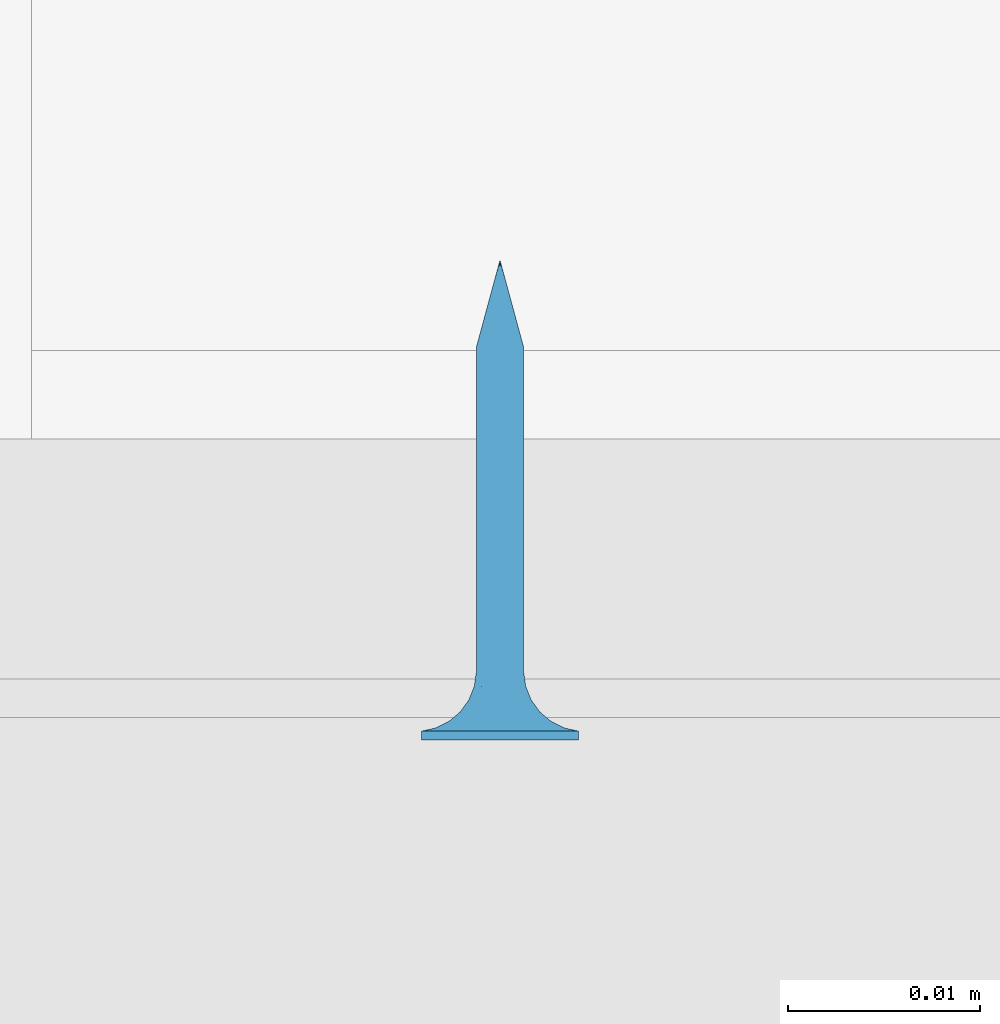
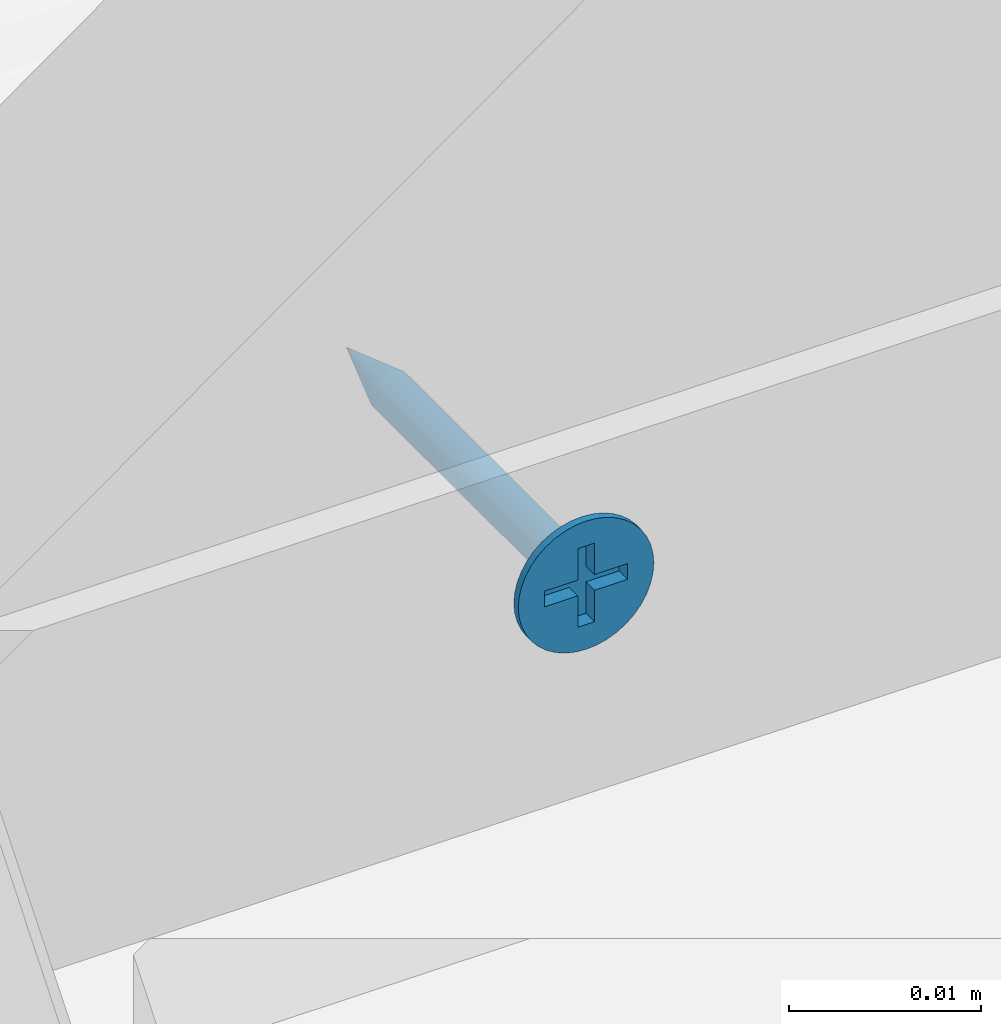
# One storey, part 28 of 79: 1 slab.
"""IFC2X3 building model written with IfcOpenShell, lengths in millimetres."""

from ifc_helpers import new_model, entity, si_unit, converted_unit, direction, frame, origin, origin_with_axes, place, context, project, spatial, faceted_brep, element, save


model = new_model("IFC2X3")

# Units and contexts
model_context = context("Model", 3, precision=1e-05, world=origin(), true_north=direction((0.0, 1.0, 0.0)))
ifc_project = project(units=[si_unit("LENGTHUNIT", "METRE", prefix="MILLI"), si_unit("AREAUNIT", "SQUARE_METRE"), si_unit("VOLUMEUNIT", "CUBIC_METRE"), converted_unit("PLANEANGLEUNIT", "DEGREE", entity("IfcPlaneAngleMeasure", 0.01745), si_unit("PLANEANGLEUNIT", "RADIAN"), dimensions=[0, 0, 0, 0, 0, 0, 0]), si_unit("SOLIDANGLEUNIT", "STERADIAN"), si_unit("MASSUNIT", "GRAM"), si_unit("TIMEUNIT", "SECOND"), si_unit("THERMODYNAMICTEMPERATUREUNIT", "DEGREE_CELSIUS"), si_unit("LUMINOUSINTENSITYUNIT", "LUMEN")], contexts=[model_context])

# Site, building, storey
site_placement = place(None, origin_with_axes())
site = spatial("IfcSite", under=ifc_project, at=site_placement, Name="Default Site", CompositionType="ELEMENT")
building_placement = place(site_placement, origin_with_axes())
building = spatial("IfcBuilding", under=site, at=building_placement, Name="Default Building", CompositionType="ELEMENT")
storey_placement = place(building_placement, origin_with_axes())
storey = spatial("IfcBuildingStorey", under=building, at=storey_placement, Name="Default Building Storey", CompositionType="ELEMENT", Elevation=0.0)

# Slab
slab_placement = place(storey_placement, frame((2730.499834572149, 5017.24186699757, 440.6779499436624), z_axis=(0.0, 0.0, 1.0), x_axis=(1.0, 0.0, 0.0)))
element("IfcSlab", 1, at=slab_placement, inside=storey, Name="Łącznik mechaniczny", context=model_context, shape_type="Brep", body=[
    faceted_brep([(-136.5890362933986, -3387.475459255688, 554.9298199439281), (-136.4636235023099, -3387.475459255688, 555.0766594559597), (-136.4636235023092, -3370.55807436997, 555.0766594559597), (-136.5890362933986, -3370.55807436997, 554.9298199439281), (-136.9005263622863, -3387.475459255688, 554.7035091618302), (-136.9005263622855, -3370.55807436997, 554.7035091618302), (-137.0789337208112, -3370.55807436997, 554.6296104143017), (-137.078933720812, -3387.475459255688, 554.6296104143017), (-137.2667048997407, -3387.475459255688, 554.5845305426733), (-137.2667048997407, -3370.55807436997, 554.5845305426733), (-137.4592163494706, -3370.55807436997, 554.5693795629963), (-137.4592163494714, -3387.475459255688, 554.5693795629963), (-136.4636235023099, -3387.475459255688, 556.5233405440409), (-136.5890362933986, -3387.475459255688, 556.6701800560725), (-136.5890362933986, -3370.55807436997, 556.6701800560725), (-136.4636235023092, -3370.55807436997, 556.5233405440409), (-138.4548091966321, -3370.55807436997, 556.5233405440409), (-138.3293964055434, -3370.55807436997, 556.6701800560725), (-138.3293964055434, -3387.475459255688, 556.6701800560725), (-138.4548091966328, -3387.475459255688, 556.5233405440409), (-136.7358758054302, -3370.55807436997, 554.8044071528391), (-136.7358758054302, -3387.475459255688, 554.8044071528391), (-138.1825568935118, -3387.475459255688, 556.7955928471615), (-138.1825568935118, -3370.55807436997, 556.7955928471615), (-138.0179063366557, -3370.55807436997, 556.8964908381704), (-138.0179063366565, -3387.475459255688, 556.8964908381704), (-136.3627255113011, -3387.475459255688, 556.3586899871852), (-136.3627255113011, -3370.55807436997, 556.3586899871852), (-136.7358758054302, -3387.475459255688, 556.7955928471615), (-136.7358758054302, -3370.55807436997, 556.7955928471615), (-137.6517277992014, -3387.475459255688, 554.5845305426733), (-137.6517277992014, -3370.55807436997, 554.5845305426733), (-137.83949897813, -3370.55807436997, 554.6296104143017), (-137.8394989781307, -3387.475459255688, 554.6296104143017), (-136.3627255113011, -3387.475459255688, 555.241310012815), (-136.3627255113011, -3370.55807436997, 555.241310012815), (-138.0179063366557, -3370.55807436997, 554.7035091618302), (-138.0179063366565, -3387.475459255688, 554.7035091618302), (-138.6746858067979, -3370.55807436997, 555.6074885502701), (-138.6898367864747, -3370.55807436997, 555.8000000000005), (-138.6898367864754, -3387.475459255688, 555.8000000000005), (-138.6746858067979, -3387.475459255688, 555.6074885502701), (-136.2285959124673, -3387.475459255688, 555.8000000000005), (-136.2437468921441, -3387.475459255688, 555.9925114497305), (-136.2437468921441, -3370.55807436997, 555.9925114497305), (-136.2285959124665, -3370.55807436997, 555.8000000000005), (-138.3293964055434, -3370.55807436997, 554.9298199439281), (-138.4548091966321, -3370.55807436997, 555.0766594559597), (-138.4548091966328, -3387.475459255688, 555.0766594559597), (-138.3293964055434, -3387.475459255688, 554.9298199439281), (-137.83949897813, -3370.55807436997, 556.9703895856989), (-137.8394989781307, -3387.475459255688, 556.9703895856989), (-138.1825568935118, -3370.55807436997, 554.8044071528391), (-138.1825568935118, -3387.475459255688, 554.8044071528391), (-138.5557071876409, -3370.55807436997, 555.241310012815), (-138.6296059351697, -3370.55807436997, 555.4197173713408), (-138.6296059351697, -3387.475459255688, 555.4197173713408), (-138.5557071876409, -3387.475459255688, 555.241310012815), (-136.2888267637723, -3387.475459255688, 555.4197173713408), (-136.2437468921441, -3387.475459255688, 555.6074885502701), (-136.2437468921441, -3370.55807436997, 555.6074885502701), (-136.2888267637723, -3370.55807436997, 555.4197173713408), (-136.2888267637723, -3387.475459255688, 556.1802826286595), (-136.2888267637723, -3370.55807436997, 556.1802826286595), (-137.4592163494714, -3387.475459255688, 557.0306204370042), (-137.4592163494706, -3370.55807436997, 557.0306204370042), (-137.2667048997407, -3370.55807436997, 557.0154694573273), (-137.2667048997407, -3387.475459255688, 557.0154694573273), (-137.0789337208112, -3370.55807436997, 556.9703895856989), (-137.078933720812, -3387.475459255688, 556.9703895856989), (-137.6517277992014, -3387.475459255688, 557.0154694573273), (-137.6517277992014, -3370.55807436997, 557.0154694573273), (-136.9005263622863, -3387.475459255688, 556.8964908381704), (-136.9005263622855, -3370.55807436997, 556.8964908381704), (-138.6296059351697, -3370.55807436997, 556.1802826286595), (-138.5557071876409, -3370.55807436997, 556.3586899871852), (-138.5557071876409, -3387.475459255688, 556.3586899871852), (-138.6296059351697, -3387.475459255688, 556.1802826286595), (-138.6746858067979, -3370.55807436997, 555.9925114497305), (-138.6746858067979, -3387.475459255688, 555.9925114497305), (-141.5377463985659, -3390.556721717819, 555.8000000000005), (-141.5377463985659, -3391.020944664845, 555.8000000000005), (-141.4875329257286, -3391.020944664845, 555.1619773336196), (-141.4875329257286, -3390.556721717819, 555.1619773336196), (-141.338128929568, -3391.020944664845, 554.539664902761), (-141.338128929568, -3390.556721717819, 554.539664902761), (-141.0932132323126, -3391.020944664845, 553.948386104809), (-141.0932132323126, -3390.556721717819, 553.948386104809), (-140.7588164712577, -3391.020944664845, 553.4027001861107), (-140.7588164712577, -3390.556721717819, 553.4027001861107), (-140.3431726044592, -3391.020944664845, 552.9160437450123), (-140.4541727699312, -3390.556721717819, 553.0314907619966), (-140.1080097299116, -3390.556721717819, 552.6986614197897), (-139.8565161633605, -3391.020944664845, 552.5003998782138), (-139.7251262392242, -3390.556721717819, 552.4088262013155), (-139.3108302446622, -3391.020944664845, 552.1660031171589), (-139.3108302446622, -3390.556721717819, 552.1660031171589), (-138.8708651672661, -3390.556721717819, 551.9735584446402), (-138.7195514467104, -3391.020944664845, 551.9210874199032), (-138.4113302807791, -3390.556721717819, 551.8341600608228), (-137.9385961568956, -3390.556721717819, 551.7497404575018), (-138.0972390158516, -3391.020944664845, 551.7716834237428), (-137.4592163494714, -3391.020944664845, 551.7214699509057), (-137.4592163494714, -3390.556721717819, 551.7214699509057), (-136.8211936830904, -3391.020944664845, 551.7716834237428), (-136.8211936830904, -3390.556721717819, 551.7716834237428), (-136.1988812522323, -3391.020944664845, 551.9210874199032), (-136.1988812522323, -3390.556721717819, 551.9210874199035), (-135.6076024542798, -3391.020944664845, 552.1660031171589), (-135.6076024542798, -3390.556721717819, 552.1660031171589), (-135.0619165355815, -3391.020944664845, 552.5003998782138), (-135.0619165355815, -3390.556721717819, 552.5003998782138), (-134.5752600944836, -3391.020944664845, 552.9160437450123), (-134.5752600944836, -3390.556721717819, 552.9160437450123), (-134.1596162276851, -3391.020944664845, 553.4027001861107), (-134.1596162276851, -3390.556721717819, 553.4027001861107), (-133.8252194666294, -3391.020944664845, 553.948386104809), (-133.8252194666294, -3390.556721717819, 553.948386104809), (-133.580303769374, -3391.020944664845, 554.539664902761), (-133.580303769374, -3390.556721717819, 554.539664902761), (-133.4308997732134, -3391.020944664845, 556.438022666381), (-133.4308997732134, -3390.556721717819, 556.438022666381), (-133.3806863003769, -3390.556721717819, 555.8000000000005), (-133.3806863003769, -3391.020944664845, 555.8000000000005), (-133.4308997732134, -3390.556721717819, 555.1619773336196), (-133.4308997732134, -3391.020944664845, 555.1619773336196), (-133.580303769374, -3391.020944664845, 557.0603350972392), (-133.580303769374, -3390.556721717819, 557.0603350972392), (-133.8252194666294, -3391.020944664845, 557.6516138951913), (-133.8252194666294, -3390.556721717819, 557.6516138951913), (-134.1596162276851, -3391.020944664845, 558.1972998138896), (-134.1596162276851, -3390.556721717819, 558.1972998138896), (-134.5752600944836, -3391.020944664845, 558.683956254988), (-134.5752600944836, -3390.556721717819, 558.683956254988), (-135.0619165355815, -3391.020944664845, 559.0996001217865), (-135.0619165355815, -3390.556721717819, 559.0996001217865), (-135.6076024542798, -3391.020944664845, 559.4339968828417), (-135.6076024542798, -3390.556721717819, 559.4339968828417), (-136.1988812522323, -3391.020944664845, 559.6789125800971), (-136.1988812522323, -3390.556721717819, 559.6789125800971), (-136.8211936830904, -3391.020944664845, 559.8283165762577), (-136.8211936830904, -3390.556721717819, 559.8283165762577), (-137.4592163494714, -3391.020944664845, 559.8785300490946), (-137.4592163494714, -3390.556721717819, 559.8785300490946), (-138.0972390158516, -3391.020944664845, 559.8283165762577), (-138.0972390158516, -3390.556721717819, 559.8283165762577), (-138.7195514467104, -3391.020944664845, 559.6789125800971), (-138.7195514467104, -3390.556721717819, 559.6789125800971), (-139.3108302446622, -3391.020944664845, 559.4339968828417), (-139.3108302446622, -3390.556721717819, 559.4339968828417), (-139.8565161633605, -3391.020944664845, 559.0996001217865), (-139.8565161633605, -3390.556721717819, 559.0996001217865), (-140.3431726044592, -3391.020944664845, 558.683956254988), (-140.3431726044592, -3390.556721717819, 558.683956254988), (-140.7588164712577, -3391.020944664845, 558.1972998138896), (-140.7588164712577, -3390.556721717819, 558.1972998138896), (-141.0932132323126, -3391.020944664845, 557.6516138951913), (-141.0932132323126, -3390.556721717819, 557.6516138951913), (-141.338128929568, -3391.020944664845, 557.0603350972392), (-141.338128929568, -3390.556721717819, 557.0603350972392), (-141.4875329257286, -3391.020944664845, 556.438022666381), (-141.4875329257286, -3390.556721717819, 556.438022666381), (-137.8060615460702, -3388.229732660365, 554.5055560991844), (-137.4592163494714, -3388.229732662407, 554.4598930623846), (-138.1292698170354, -3388.229732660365, 554.6394333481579), (-138.4068150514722, -3388.229732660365, 554.8524012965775), (-138.6197830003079, -3388.229732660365, 555.1299465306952), (-138.7536602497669, -3388.229732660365, 555.4531548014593), (-138.7993232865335, -3388.229732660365, 555.7999999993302), (-138.7536602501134, -3388.229732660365, 556.1468451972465), (-138.6197830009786, -3388.229732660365, 556.4700534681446), (-138.4068150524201, -3388.229732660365, 556.7475987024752), (-138.1292698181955, -3388.229732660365, 556.9605666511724), (-137.8060615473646, -3388.229732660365, 557.0944439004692), (-137.4592163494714, -3388.229732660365, 557.1401069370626), (-137.1123711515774, -3388.229732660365, 557.0944439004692), (-136.7891628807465, -3388.229732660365, 556.9605666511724), (-136.5116176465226, -3388.229732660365, 556.7475987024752), (-136.2986496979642, -3388.229732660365, 556.4700534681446), (-136.1647724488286, -3388.229732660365, 556.1468451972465), (-136.1191094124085, -3388.229732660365, 555.7999999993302), (-136.1647724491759, -3388.229732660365, 555.4531548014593), (-136.2986496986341, -3388.229732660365, 555.1299465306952), (-136.5116176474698, -3388.229732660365, 554.8524012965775), (-136.7891628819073, -3388.229732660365, 554.6394333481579), (-137.1123711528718, -3388.229732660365, 554.5055560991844), (-137.4592163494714, -3388.936142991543, 554.1737111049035), (-137.8801308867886, -3388.936142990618, 554.2291255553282), (-138.2723607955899, -3388.936142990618, 554.39159250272), (-138.6091762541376, -3388.936142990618, 554.6500400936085), (-138.8676238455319, -3388.936142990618, 554.9868555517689), (-139.0300907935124, -3388.936142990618, 555.3790854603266), (-139.0855052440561, -3388.936142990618, 555.7999999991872), (-139.0300907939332, -3388.936142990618, 556.2209145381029), (-138.8676238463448, -3388.936142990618, 556.6131444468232), (-138.6091762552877, -3388.936142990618, 556.949959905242), (-138.2723607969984, -3388.936142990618, 557.2084074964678), (-137.8801308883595, -3388.936142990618, 557.3708744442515), (-137.4592163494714, -3388.936142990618, 557.4262888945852), (-137.0383018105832, -3388.936142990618, 557.3708744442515), (-136.6460719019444, -3388.936142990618, 557.2084074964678), (-136.3092564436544, -3388.936142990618, 556.949959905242), (-136.0508088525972, -3388.936142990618, 556.6131444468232), (-135.8883419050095, -3388.936142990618, 556.2209145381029), (-135.8329274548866, -3388.936142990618, 555.7999999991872), (-135.8883419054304, -3388.936142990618, 555.3790854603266), (-136.0508088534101, -3388.936142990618, 554.9868555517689), (-136.3092564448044, -3388.936142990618, 554.6500400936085), (-136.6460719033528, -3388.936142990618, 554.39159250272), (-137.0383018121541, -3388.936142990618, 554.2291255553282), (-137.4592163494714, -3389.553938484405, 553.727343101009), (-137.9956594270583, -3389.553938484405, 553.7979671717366), (-138.4955447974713, -3389.553938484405, 554.0050264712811), (-138.9248060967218, -3389.553938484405, 554.3344102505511), (-139.2541898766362, -3389.553938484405, 554.7636715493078), (-139.46124917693, -3389.553938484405, 555.2635569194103), (-139.5318732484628, -3389.553938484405, 555.7999999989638), (-139.4612491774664, -3389.553938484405, 556.3364430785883), (-139.2541898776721, -3389.553938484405, 556.8363284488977), (-138.9248060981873, -3389.553938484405, 557.2655897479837), (-138.495544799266, -3389.553938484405, 557.5949735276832), (-137.9956594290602, -3389.553938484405, 557.8020328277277), (-137.4592163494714, -3389.553938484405, 557.8726568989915), (-136.9227732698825, -3389.553938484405, 557.8020328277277), (-136.422887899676, -3389.553938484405, 557.5949735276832), (-135.9936266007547, -3389.553938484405, 557.2655897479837), (-135.6642428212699, -3389.553938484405, 556.8363284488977), (-135.4571835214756, -3389.553938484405, 556.3364430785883), (-135.3865594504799, -3389.553938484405, 555.7999999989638), (-135.457183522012, -3389.553938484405, 555.2635569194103), (-135.6642428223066, -3389.553938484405, 554.7636715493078), (-135.9936266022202, -3389.553938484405, 554.3344102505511), (-136.4228879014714, -3389.553938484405, 554.0050264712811), (-136.9227732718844, -3389.553938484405, 553.7979671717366), (-137.4592163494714, -3390.04747944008, 553.1465393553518), (-138.1459824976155, -3390.047479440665, 553.2369538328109), (-138.7859466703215, -3390.047479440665, 553.5020356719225), (-139.3354963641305, -3390.047479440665, 553.9237199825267), (-139.757180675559, -3390.047479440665, 554.4732696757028), (-140.0222625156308, -3390.047479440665, 555.1132338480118), (-140.1126769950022, -3390.047479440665, 555.7999999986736), (-140.0222625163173, -3390.047479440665, 556.4867661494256), (-139.7571806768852, -3390.047479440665, 557.1267303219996), (-139.3354963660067, -3390.047479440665, 557.6762800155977), (-138.7859466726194, -3390.047479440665, 558.0979643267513), (-138.1459825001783, -3390.047479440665, 558.3630461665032), (-137.4592163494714, -3390.047479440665, 558.4534606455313), (-136.7724501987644, -3390.047479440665, 558.3630461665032), (-136.1324860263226, -3390.047479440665, 558.0979643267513), (-135.5829363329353, -3390.047479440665, 557.6762800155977), (-135.1612520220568, -3390.047479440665, 557.1267303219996), (-134.8961701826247, -3390.047479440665, 556.4867661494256), (-134.8057557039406, -3390.047479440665, 555.7999999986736), (-134.8961701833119, -3390.047479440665, 555.1132338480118), (-135.1612520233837, -3390.047479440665, 554.4732696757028), (-135.5829363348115, -3390.047479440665, 553.9237199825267), (-136.1324860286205, -3390.047479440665, 553.5020356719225), (-136.7724502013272, -3390.047479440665, 553.2369538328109), (-137.4592163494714, -3390.388294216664, 552.4648055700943), (-138.3224281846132, -3390.388294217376, 552.5784495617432), (-139.1268135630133, -3390.388294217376, 552.9116368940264), (-139.8175549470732, -3390.388294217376, 553.4416613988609), (-140.3475794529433, -3390.388294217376, 554.1324027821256), (-140.6807667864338, -3390.388294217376, 554.9367881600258), (-140.7944107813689, -3390.388294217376, 555.7999999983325), (-140.6807667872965, -3390.388294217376, 556.6632118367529), (-140.3475794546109, -3390.388294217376, 557.4675972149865), (-139.8175549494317, -3390.388294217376, 558.1583385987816), (-139.1268135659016, -3390.388294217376, 558.6883631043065), (-138.3224281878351, -3390.388294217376, 559.0215504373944), (-137.4592163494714, -3390.388294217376, 559.1351944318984), (-136.5960045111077, -3390.388294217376, 559.0215504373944), (-135.7916191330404, -3390.388294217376, 558.6883631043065), (-135.1008777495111, -3390.388294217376, 558.1583385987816), (-134.5708532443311, -3390.388294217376, 557.4675972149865), (-134.2376659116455, -3390.388294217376, 556.6632118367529), (-134.1240219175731, -3390.388294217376, 555.7999999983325), (-134.2376659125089, -3390.388294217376, 554.9367881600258), (-134.5708532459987, -3390.388294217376, 554.1324027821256), (-135.1008777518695, -3390.388294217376, 553.4416613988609), (-135.7916191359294, -3390.388294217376, 552.9116368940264), (-136.5960045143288, -3390.388294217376, 552.5784495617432), (-137.4592163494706, -3366.021033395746, 555.8000000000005), (-139.9592163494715, -3391.020944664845, 556.3000000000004), (-137.9592163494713, -3391.020944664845, 556.3000000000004), (-139.9592163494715, -3391.020944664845, 555.3000000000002), (-137.9592163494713, -3391.020944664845, 555.3000000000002), (-137.9592163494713, -3391.020944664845, 553.3000000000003), (-136.9592163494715, -3391.020944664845, 553.3000000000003), (-136.9592163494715, -3391.020944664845, 555.3000000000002), (-134.9592163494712, -3391.020944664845, 555.3000000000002), (-134.9592163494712, -3391.020944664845, 556.3000000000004), (-136.9592163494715, -3391.020944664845, 556.3000000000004), (-136.9592163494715, -3391.020944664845, 558.3000000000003), (-137.9592163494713, -3391.020944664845, 558.3000000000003), (-136.9592163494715, -3390.128974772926, 556.3000000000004), (-134.9592163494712, -3390.128974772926, 556.3000000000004), (-134.9592163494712, -3390.128974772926, 555.3000000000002), (-136.9592163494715, -3390.128974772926, 555.3000000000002), (-136.9592163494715, -3390.128974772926, 553.3000000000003), (-137.9592163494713, -3390.128974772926, 553.3000000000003), (-137.9592163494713, -3390.128974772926, 555.3000000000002), (-139.9592163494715, -3390.128974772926, 555.3000000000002), (-139.9592163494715, -3390.128974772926, 556.3000000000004), (-137.9592163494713, -3390.128974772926, 556.3000000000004), (-137.9592163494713, -3390.128974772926, 558.3000000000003), (-136.9592163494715, -3390.128974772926, 558.3000000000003)], [[[0, 1, 2, 3]], [[4, 5, 6, 7]], [[8, 9, 10, 11]], [[12, 13, 14, 15]], [[16, 17, 18, 19]], [[0, 3, 20, 21]], [[22, 23, 24, 25]], [[26, 12, 15, 27]], [[28, 29, 14, 13]], [[30, 31, 32, 33]], [[1, 34, 35, 2]], [[18, 17, 23, 22]], [[7, 6, 9, 8]], [[33, 32, 36, 37]], [[38, 39, 40, 41]], [[42, 43, 44, 45]], [[46, 47, 48, 49]], [[25, 24, 50, 51]], [[37, 36, 52, 53]], [[54, 55, 56, 57]], [[53, 52, 46, 49]], [[47, 54, 57, 48]], [[58, 59, 60, 61]], [[59, 42, 45, 60]], [[43, 62, 63, 44]], [[64, 65, 66, 67]], [[67, 66, 68, 69]], [[55, 38, 41, 56]], [[70, 71, 65, 64]], [[72, 73, 29, 28]], [[74, 75, 76, 77]], [[69, 68, 73, 72]], [[39, 78, 79, 40]], [[75, 16, 19, 76]], [[62, 26, 27, 63]], [[11, 10, 31, 30]], [[21, 20, 5, 4]], [[34, 58, 61, 35]], [[51, 50, 71, 70]], [[78, 74, 77, 79]], [[80, 81, 82, 83]], [[84, 85, 83, 82]], [[86, 87, 85, 84]], [[87, 86, 88, 89]], [[88, 90, 89]], [[90, 91, 89]], [[92, 91, 93]], [[91, 90, 93]], [[93, 94, 92]], [[93, 95, 94]], [[95, 96, 94]], [[97, 96, 98]], [[96, 95, 98]], [[98, 99, 97]], [[100, 99, 101]], [[99, 98, 101]], [[101, 102, 100]], [[102, 103, 100]], [[103, 102, 104, 105]], [[106, 107, 105, 104]], [[108, 109, 107, 106]], [[109, 108, 110, 111]], [[112, 113, 111, 110]], [[113, 112, 114, 115]], [[116, 117, 115, 114]], [[118, 119, 117, 116]], [[120, 121, 122, 123]], [[123, 122, 124, 125]], [[119, 118, 125, 124]], [[126, 127, 121, 120]], [[128, 129, 127, 126]], [[129, 128, 130, 131]], [[132, 133, 131, 130]], [[133, 132, 134, 135]], [[136, 137, 135, 134]], [[138, 139, 137, 136]], [[139, 138, 140, 141]], [[142, 143, 141, 140]], [[143, 142, 144, 145]], [[146, 147, 145, 144]], [[148, 149, 147, 146]], [[149, 148, 150, 151]], [[152, 153, 151, 150]], [[153, 152, 154, 155]], [[156, 157, 155, 154]], [[158, 159, 157, 156]], [[159, 158, 160, 161]], [[81, 80, 161, 160]], [[162, 11, 30]], [[162, 163, 11]], [[30, 33, 162]], [[162, 33, 164]], [[37, 164, 33]], [[164, 37, 53]], [[53, 165, 164]], [[53, 49, 165]], [[166, 49, 48]], [[166, 165, 49]], [[48, 57, 166]], [[166, 57, 167]], [[56, 167, 57]], [[167, 56, 41]], [[41, 168, 167]], [[41, 40, 168]], [[169, 40, 79]], [[169, 168, 40]], [[79, 77, 169]], [[169, 77, 170]], [[76, 170, 77]], [[170, 76, 19]], [[19, 171, 170]], [[19, 18, 171]], [[172, 18, 22]], [[172, 171, 18]], [[22, 25, 172]], [[172, 25, 173]], [[51, 173, 25]], [[173, 51, 70]], [[70, 174, 173]], [[70, 64, 174]], [[175, 64, 67]], [[175, 174, 64]], [[67, 69, 175]], [[175, 69, 176]], [[72, 176, 69]], [[176, 72, 28]], [[28, 177, 176]], [[28, 13, 177]], [[178, 13, 12]], [[178, 177, 13]], [[12, 26, 178]], [[178, 26, 179]], [[62, 179, 26]], [[179, 62, 43]], [[43, 180, 179]], [[43, 42, 180]], [[181, 42, 59]], [[181, 180, 42]], [[59, 58, 181]], [[181, 58, 182]], [[34, 182, 58]], [[182, 34, 1]], [[1, 183, 182]], [[1, 0, 183]], [[184, 0, 21]], [[184, 183, 0]], [[21, 4, 184]], [[184, 4, 185]], [[7, 185, 4]], [[185, 7, 8]], [[8, 163, 185]], [[8, 11, 163]], [[186, 163, 187]], [[162, 187, 163]], [[164, 188, 187, 162]], [[165, 189, 188, 164]], [[166, 190, 189, 165]], [[167, 191, 190, 166]], [[168, 192, 191, 167]], [[169, 193, 192, 168]], [[170, 194, 193, 169]], [[171, 195, 194, 170]], [[172, 196, 195, 171]], [[173, 197, 196, 172]], [[174, 198, 197, 173]], [[175, 199, 198, 174]], [[176, 200, 199, 175]], [[177, 201, 200, 176]], [[178, 202, 201, 177]], [[179, 203, 202, 178]], [[180, 204, 203, 179]], [[181, 205, 204, 180]], [[182, 206, 205, 181]], [[183, 207, 206, 182]], [[184, 208, 207, 183]], [[185, 209, 208, 184]], [[185, 163, 209]], [[186, 209, 163]], [[210, 186, 211]], [[187, 211, 186]], [[188, 212, 211, 187]], [[189, 213, 212, 188]], [[190, 214, 213, 189]], [[191, 215, 214, 190]], [[192, 216, 215, 191]], [[193, 217, 216, 192]], [[194, 218, 217, 193]], [[195, 219, 218, 194]], [[196, 220, 219, 195]], [[197, 221, 220, 196]], [[198, 222, 221, 197]], [[199, 223, 222, 198]], [[200, 224, 223, 199]], [[201, 225, 224, 200]], [[202, 226, 225, 201]], [[203, 227, 226, 202]], [[204, 228, 227, 203]], [[205, 229, 228, 204]], [[206, 230, 229, 205]], [[207, 231, 230, 206]], [[208, 232, 231, 207]], [[209, 233, 232, 208]], [[209, 186, 233]], [[210, 233, 186]], [[234, 210, 235]], [[211, 235, 210]], [[212, 236, 235, 211]], [[213, 237, 236, 212]], [[214, 238, 237, 213]], [[215, 239, 238, 214]], [[216, 240, 239, 215]], [[217, 241, 240, 216]], [[218, 242, 241, 217]], [[219, 243, 242, 218]], [[220, 244, 243, 219]], [[221, 245, 244, 220]], [[222, 246, 245, 221]], [[223, 247, 246, 222]], [[224, 248, 247, 223]], [[225, 249, 248, 224]], [[226, 250, 249, 225]], [[227, 251, 250, 226]], [[228, 252, 251, 227]], [[229, 253, 252, 228]], [[230, 254, 253, 229]], [[231, 255, 254, 230]], [[232, 256, 255, 231]], [[233, 257, 256, 232]], [[233, 210, 257]], [[234, 257, 210]], [[258, 99, 100]], [[258, 259, 99]], [[100, 103, 258]], [[258, 234, 259]], [[235, 259, 234]], [[259, 96, 97]], [[259, 260, 96]], [[97, 99, 259]], [[236, 260, 259, 235]], [[261, 91, 92]], [[260, 92, 94]], [[260, 261, 92]], [[94, 96, 260]], [[237, 261, 260, 236]], [[262, 87, 89]], [[89, 261, 262]], [[89, 91, 261]], [[238, 262, 261, 237]], [[85, 87, 263]], [[262, 263, 87]], [[239, 263, 262, 238]], [[263, 80, 83]], [[263, 264, 80]], [[83, 85, 263]], [[240, 264, 263, 239]], [[265, 159, 161]], [[161, 264, 265]], [[161, 80, 264]], [[241, 265, 264, 240]], [[265, 266, 157, 159]], [[242, 266, 265, 241]], [[266, 153, 155]], [[266, 267, 153]], [[155, 157, 266]], [[243, 267, 266, 242]], [[268, 149, 151]], [[151, 267, 268]], [[151, 153, 267]], [[244, 268, 267, 243]], [[268, 269, 147, 149]], [[245, 269, 268, 244]], [[269, 143, 145]], [[269, 270, 143]], [[145, 147, 269]], [[246, 270, 269, 245]], [[271, 139, 141]], [[141, 270, 271]], [[141, 143, 270]], [[247, 271, 270, 246]], [[271, 272, 137, 139]], [[248, 272, 271, 247]], [[272, 133, 135]], [[272, 273, 133]], [[135, 137, 272]], [[249, 273, 272, 248]], [[274, 129, 131]], [[131, 273, 274]], [[131, 133, 273]], [[250, 274, 273, 249]], [[274, 275, 127, 129]], [[251, 275, 274, 250]], [[275, 122, 121]], [[275, 276, 122]], [[121, 127, 275]], [[252, 276, 275, 251]], [[277, 119, 124]], [[124, 276, 277]], [[124, 122, 276]], [[253, 277, 276, 252]], [[117, 119, 278]], [[277, 278, 119]], [[254, 278, 277, 253]], [[278, 113, 115]], [[278, 279, 113]], [[115, 117, 278]], [[255, 279, 278, 254]], [[280, 109, 111]], [[111, 279, 280]], [[111, 113, 279]], [[256, 280, 279, 255]], [[107, 109, 281]], [[280, 281, 109]], [[257, 281, 280, 256]], [[257, 234, 281]], [[258, 281, 234]], [[281, 103, 105]], [[281, 258, 103]], [[105, 107, 281]], [[38, 55, 282]], [[282, 39, 38]], [[55, 54, 282]], [[47, 46, 282]], [[282, 54, 47]], [[52, 36, 282]], [[282, 46, 52]], [[36, 32, 282]], [[31, 10, 282]], [[282, 32, 31]], [[9, 6, 282]], [[282, 10, 9]], [[6, 5, 282]], [[20, 3, 282]], [[282, 5, 20]], [[2, 35, 282]], [[282, 3, 2]], [[35, 61, 282]], [[60, 45, 282]], [[282, 61, 60]], [[44, 63, 282]], [[282, 45, 44]], [[63, 27, 282]], [[15, 14, 282]], [[282, 27, 15]], [[29, 73, 282]], [[282, 14, 29]], [[73, 68, 282]], [[66, 65, 282]], [[282, 68, 66]], [[71, 50, 282]], [[282, 65, 71]], [[50, 24, 282]], [[23, 17, 282]], [[282, 24, 23]], [[16, 75, 282]], [[282, 17, 16]], [[75, 74, 282]], [[78, 39, 282]], [[282, 74, 78]], [[283, 156, 154, 284]], [[283, 285, 286, 287, 288, 289, 290, 291, 292, 293, 294, 284, 154, 152, 150, 148, 146, 144, 142, 140, 138, 136, 134, 132, 130, 128, 126, 120, 123, 125, 118, 116, 114, 112, 110, 108, 106, 104, 102, 101, 98, 95, 93, 90, 88, 86, 84, 82, 81, 160, 158, 156]], [[295, 296, 297, 298, 299, 300, 301, 302, 303, 304, 305, 306]], [[297, 290, 289, 298]], [[296, 291, 290, 297]], [[295, 292, 291, 296]], [[306, 293, 292, 295]], [[305, 294, 293, 306]], [[304, 284, 294, 305]], [[303, 283, 284, 304]], [[302, 285, 283, 303]], [[301, 286, 285, 302]], [[300, 287, 286, 301]], [[299, 288, 287, 300]], [[298, 289, 288, 299]]]),
])

save(model, "model.ifc")
